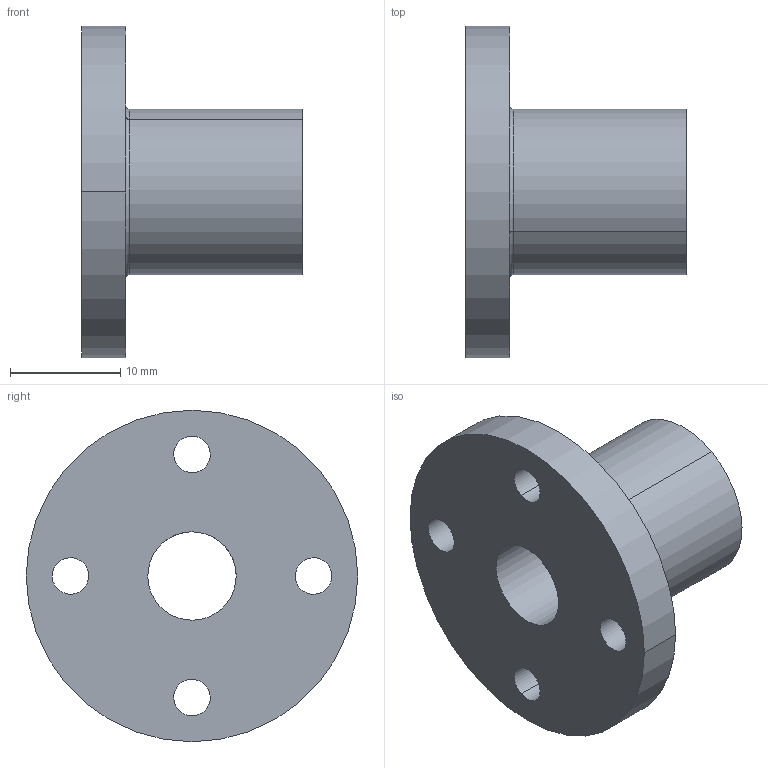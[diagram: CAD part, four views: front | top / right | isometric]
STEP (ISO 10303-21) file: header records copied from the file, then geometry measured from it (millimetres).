
FILE_DESCRIPTION(('CATIA V5 STEP Exchange'),'2;1');
FILE_NAME('C:\Users\aa\Documents\이댈\TM\TSM\TSM8100.stp','2020-04-01T09:11:47+00:00',('none'),('none'),'CATIA Version 5 Release 20 SP 7 (IN-10)','CATIA V5 STEP AP203','none');
FILE_SCHEMA(('CONFIG_CONTROL_DESIGN'));
Length unit declared in the file: millimetre
Products named in the file (1): TSM8100
Bounding box: 20 x 30 x 30 mm (x, y, z)
Volume: 4513.6 mm3; surface area: 3038.2 mm2
Topology: 1 solids, 1 shells, 19 faces, 46 edges, 30 vertices
Faces by surface type: cylinder 14, plane 3, torus 2
Entity records: 630 total; most frequent: CARTESIAN_POINT 126, ORIENTED_EDGE 92, DIRECTION 81, AXIS2_PLACEMENT_3D 49, EDGE_CURVE 46, EDGE_LOOP 30, VERTEX_POINT 30, CIRCLE 29
